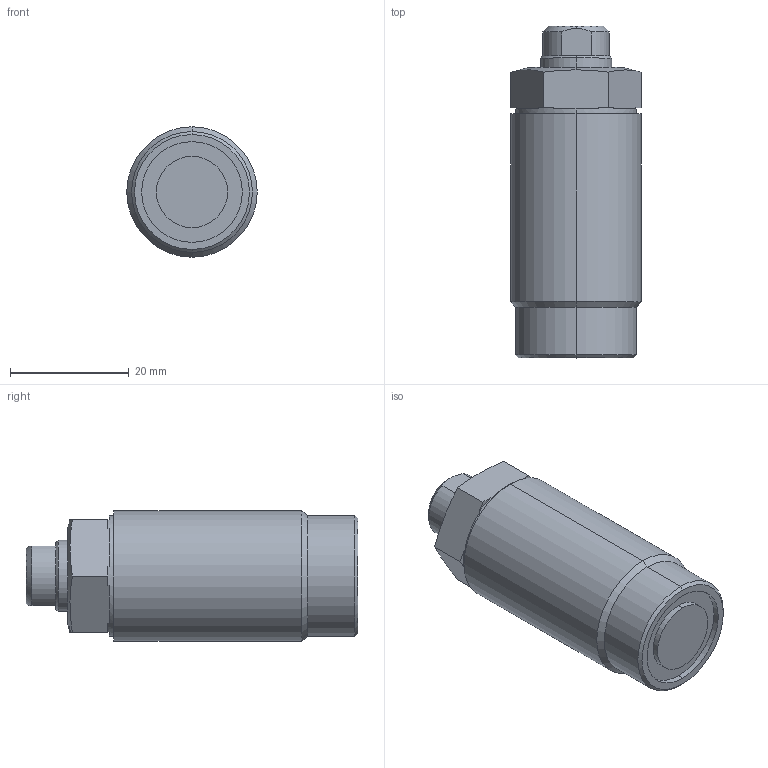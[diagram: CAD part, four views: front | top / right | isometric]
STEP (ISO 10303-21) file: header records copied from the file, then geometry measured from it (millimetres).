
FILE_DESCRIPTION (( 'STEP AP203' ), '1' );
FILE_NAME ('T03C-M221-L threaded pusher.STEP', '2022-07-09T17:35:15', ( '' ), ( '' ), 'SwSTEP 2.0', 'SolidWorks 2017', '' );
FILE_SCHEMA (( 'CONFIG_CONTROL_DESIGN' ));
Length unit declared in the file: millimetre
Products named in the file (3): T03C-M221-L threaded pusher; T03C-M221-L part-1; T03C-M221-L part-2
Assembly tree (2 placements, depth 2):
  T03C-M221-L threaded pusher
    T03C-M221-L part-1
    T03C-M221-L part-2
Bounding box: 22 x 56 x 22 mm (x, y, z)
Volume: 22135 mm3; surface area: 6136.2 mm2
Topology: 2 solids, 2 shells, 237 faces, 622 edges, 409 vertices
Faces by surface type: plane 134, bspline 74, cylinder 16, cone 13
Entity records: 11394 total; most frequent: CARTESIAN_POINT 5858, ORIENTED_EDGE 1240, DIRECTION 790, EDGE_CURVE 620, VERTEX_POINT 409, LINE 346, VECTOR 346, EDGE_LOOP 259
